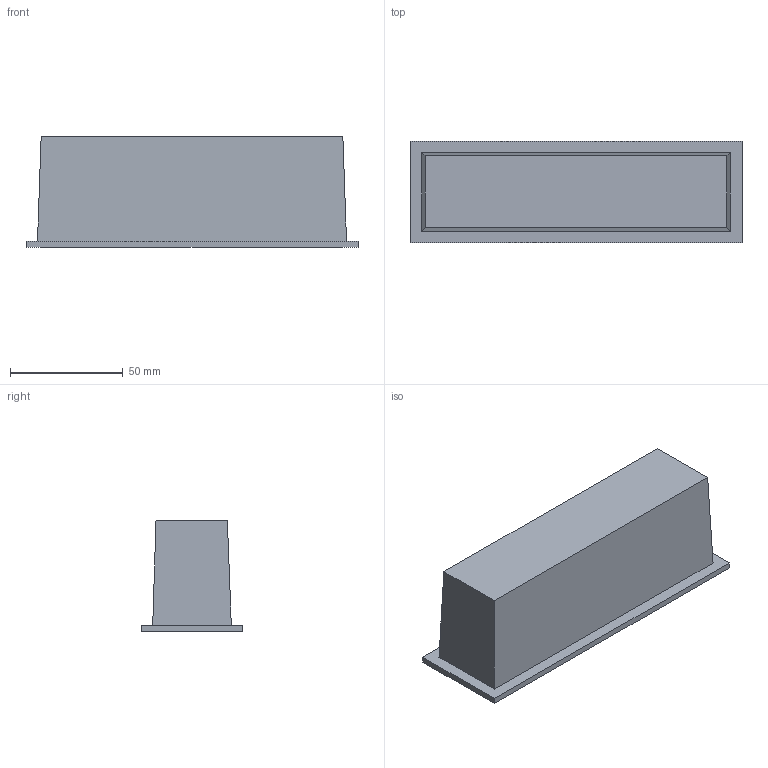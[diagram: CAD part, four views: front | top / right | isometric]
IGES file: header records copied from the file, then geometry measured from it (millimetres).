
Start section: SolidWorks IGES file using analytic representation for surfaces
Global section: file name: X:\PRODUKT\Modele 3D_WWW\_KOLEKCJE WWW\MINI\MINI-LED-10042-10043\MINI-LED-10042-10043.IGS; native system: SolidWorks 2021; preprocessor: SolidWorks 2021; author: gabriela.tworek; date: 220602.110641; units: millimetre
Bounding box: 147 x 45.01 x 49.11 mm (x, y, z)
Surface area: 75003.6 mm2 (no closed solid volume)
Topology: 0 solids, 0 shells, 112 faces, 365 edges, 340 vertices
Faces by surface type: bspline 87, revolution 25
